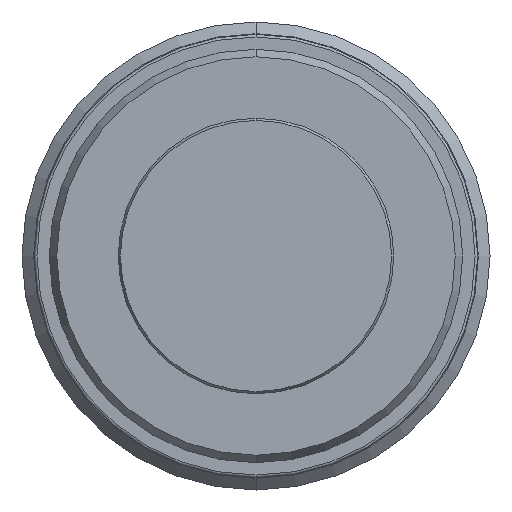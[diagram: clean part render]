
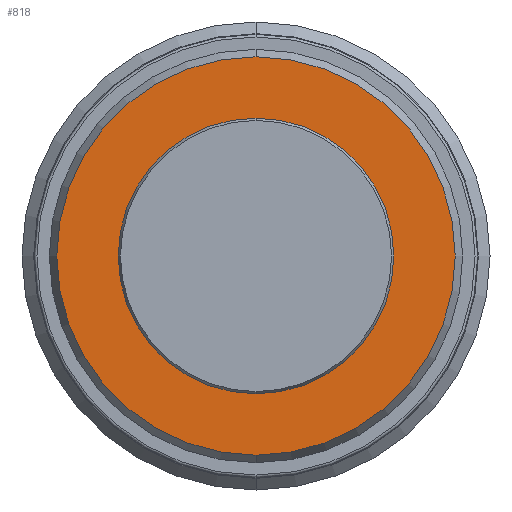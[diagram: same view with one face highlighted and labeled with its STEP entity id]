
A CAD part, front view. The second image highlights one B-rep face of the part: STEP entity #818.
In plain terms, the highlighted planar face has unit normal (0, -1, 0).
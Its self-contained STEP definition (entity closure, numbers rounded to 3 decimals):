
#505=PLANE('',#2191);
#519=FACE_BOUND('',#1031,.T.);
#520=FACE_BOUND('',#1032,.T.);
#818=ADVANCED_FACE('',(#519,#520),#505,.T.);
#1031=EDGE_LOOP('',(#1469,#1470));
#1032=EDGE_LOOP('',(#1471,#1472));
#1469=ORIENTED_EDGE('',*,*,#1744,.T.);
#1470=ORIENTED_EDGE('',*,*,#1848,.T.);
#1471=ORIENTED_EDGE('',*,*,#1746,.F.);
#1472=ORIENTED_EDGE('',*,*,#1847,.F.);
#1563=VERTEX_POINT('',#3001);
#1564=VERTEX_POINT('',#3003);
#1565=VERTEX_POINT('',#3007);
#1566=VERTEX_POINT('',#3008);
#1744=EDGE_CURVE('',#1564,#1563,#1922,.T.);
#1746=EDGE_CURVE('',#1565,#1566,#1923,.T.);
#1847=EDGE_CURVE('',#1566,#1565,#1970,.T.);
#1848=EDGE_CURVE('',#1563,#1564,#1971,.T.);
#1922=CIRCLE('',#2099,10.6);
#1923=CIRCLE('',#2101,15.323);
#1970=CIRCLE('',#2188,15.323);
#1971=CIRCLE('',#2190,10.6);
#2099=AXIS2_PLACEMENT_3D('',#3002,#2491,#2492);
#2101=AXIS2_PLACEMENT_3D('',#3006,#2496,#2497);
#2188=AXIS2_PLACEMENT_3D('',#3275,#2704,#2705);
#2190=AXIS2_PLACEMENT_3D('',#3277,#2708,#2709);
#2191=AXIS2_PLACEMENT_3D('',#3278,#2710,#2711);
#2491=DIRECTION('',(0.,1.,0.));
#2492=DIRECTION('',(0.,0.,1.));
#2496=DIRECTION('',(0.,1.,0.));
#2497=DIRECTION('',(0.,0.,1.));
#2704=DIRECTION('',(0.,1.,0.));
#2705=DIRECTION('',(0.,0.,1.));
#2708=DIRECTION('',(0.,1.,0.));
#2709=DIRECTION('',(0.,0.,1.));
#2710=DIRECTION('',(0.,-1.,0.));
#2711=DIRECTION('',(0.,0.,1.));
#3001=CARTESIAN_POINT('',(0.,-2.2,-10.6));
#3002=CARTESIAN_POINT('',(0.,-2.2,0.));
#3003=CARTESIAN_POINT('',(0.,-2.2,10.6));
#3006=CARTESIAN_POINT('',(0.,-2.2,0.));
#3007=CARTESIAN_POINT('',(0.,-2.2,15.323));
#3008=CARTESIAN_POINT('',(0.,-2.2,-15.323));
#3275=CARTESIAN_POINT('',(0.,-2.2,0.));
#3277=CARTESIAN_POINT('',(0.,-2.2,0.));
#3278=CARTESIAN_POINT('',(10.6,-2.2,0.));
